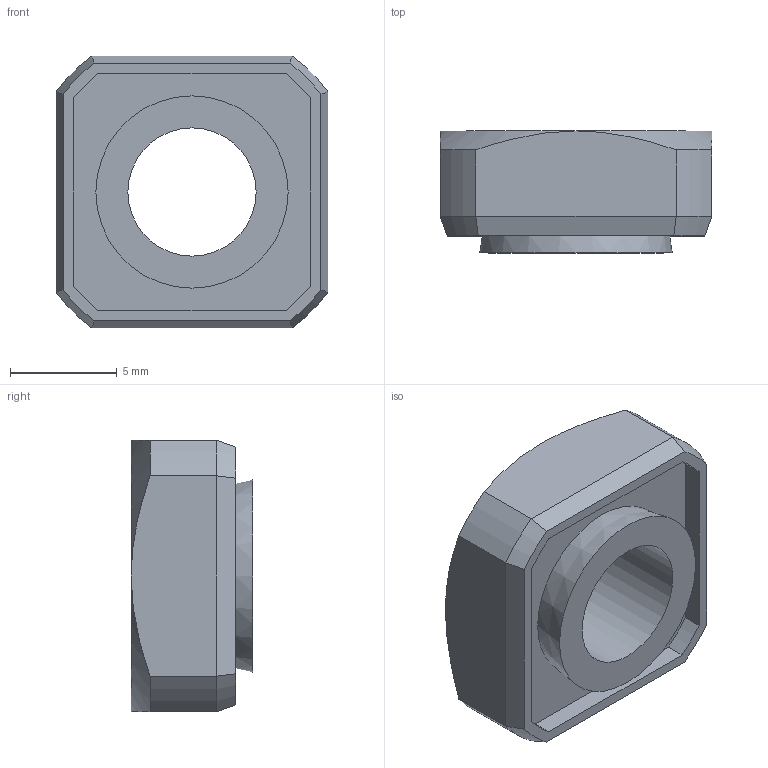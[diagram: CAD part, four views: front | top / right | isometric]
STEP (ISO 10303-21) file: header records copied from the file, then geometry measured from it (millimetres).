
FILE_DESCRIPTION(/* description */ (''),/* implementation_level */ '2;1');
FILE_NAME(/* name */ 'D:\Sukhmani\Fastit\KP Nut\KP 6-T.stp',/* time_stamp */ '2024-03-14T12:24:44+06:00',/* author */ ('edc.sukhmani'),/* organization */ (''),/* preprocessor_version */ 'ST-DEVELOPER v18.1',/* originating_system */ 'Autodesk Inventor 2022',/* authorisation */ '');
FILE_SCHEMA (('AUTOMOTIVE_DESIGN { 1 0 10303 214 3 1 1 }'));
Length unit declared in the file: millimetre
Products named in the file (1): KP 6-T
Bounding box: 12.72 x 5.7 x 12.72 mm (x, y, z)
Volume: 575.9 mm3; surface area: 652.2 mm2
Topology: 1 solids, 1 shells, 36 faces, 84 edges, 52 vertices
Faces by surface type: plane 16, cone 10, cylinder 10
Full cylindrical faces by diameter (mm): 6 x1, 7.25 x1
Entity records: 1055 total; most frequent: CARTESIAN_POINT 205, DIRECTION 174, ORIENTED_EDGE 168, EDGE_CURVE 84, AXIS2_PLACEMENT_3D 69, VERTEX_POINT 52, EDGE_LOOP 40, FACE_OUTER_BOUND 36
